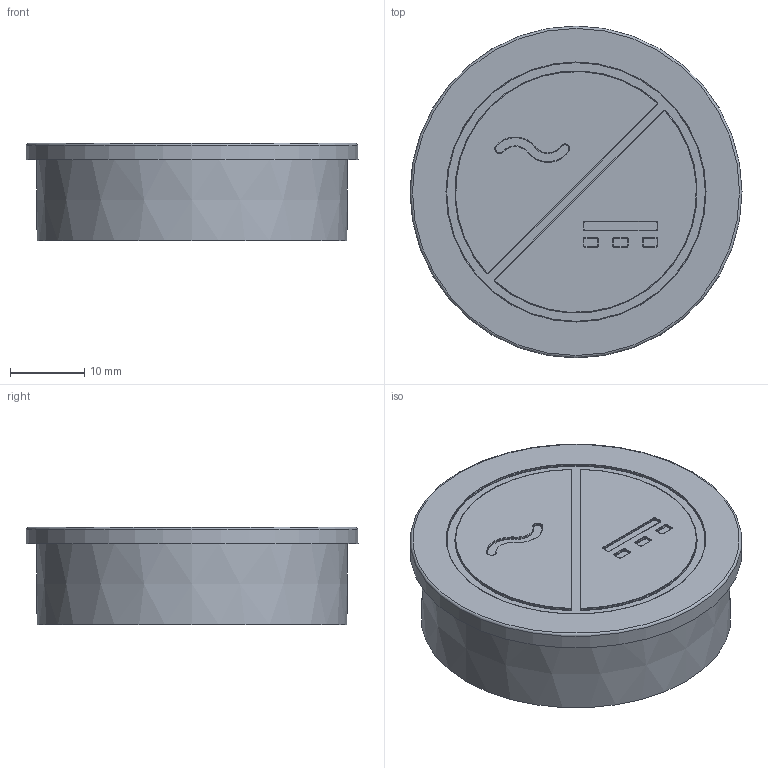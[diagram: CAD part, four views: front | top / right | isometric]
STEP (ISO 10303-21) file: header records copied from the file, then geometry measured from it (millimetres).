
FILE_DESCRIPTION (( 'STEP AP203' ), '1' );
FILE_NAME ('Canister PSU - AC DC fascia.STEP', '2022-08-10T11:48:22', ( '' ), ( '' ), 'SwSTEP 2.0', 'SolidWorks 2021', '' );
FILE_SCHEMA (( 'CONFIG_CONTROL_DESIGN' ));
Length unit declared in the file: millimetre
Products named in the file (1): Canister PSU - AC DC fascia
Bounding box: 44.8 x 44.8 x 13.15 mm (x, y, z)
Volume: 18500.2 mm3; surface area: 4955.4 mm2
Topology: 1 solids, 1 shells, 155 faces, 338 edges, 194 vertices
Faces by surface type: cylinder 65, torus 59, plane 29, cone 2
Full cylindrical faces by diameter (mm): 35 x1
Entity records: 4271 total; most frequent: DIRECTION 856, CARTESIAN_POINT 680, ORIENTED_EDGE 662, AXIS2_PLACEMENT_3D 369, EDGE_CURVE 331, CIRCLE 213, VERTEX_POINT 193, EDGE_LOOP 170
